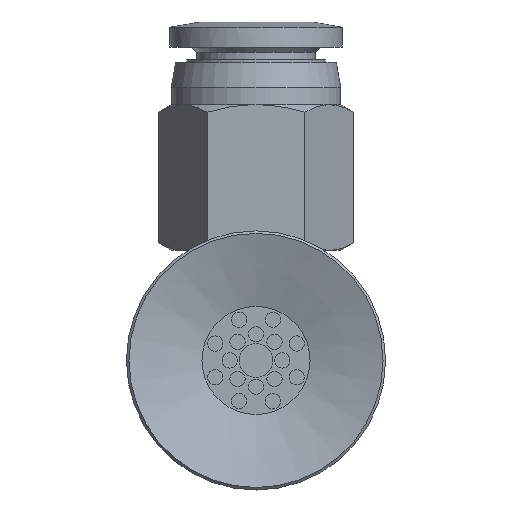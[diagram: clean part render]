
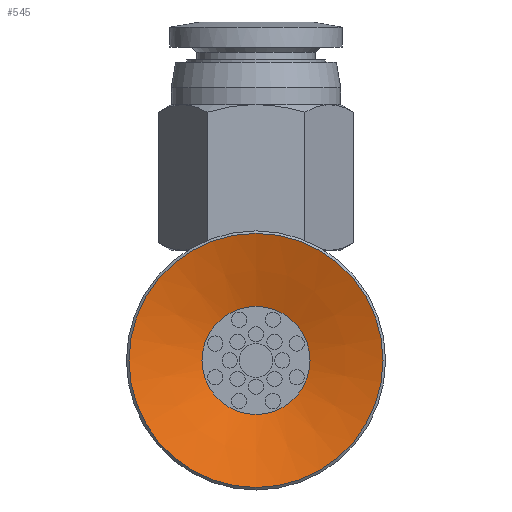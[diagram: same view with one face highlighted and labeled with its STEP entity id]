
A CAD part, front view. The second image highlights one B-rep face of the part: STEP entity #545.
In plain terms, the highlighted conical face has half-angle 72 degrees and reference radius 7.5 mm.
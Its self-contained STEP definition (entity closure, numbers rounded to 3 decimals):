
#545=ADVANCED_FACE('',(#880,#881),#882,.F.);
#880=FACE_BOUND('',#1366,.T.);
#881=FACE_OUTER_BOUND('',#1367,.T.);
#882=CONICAL_SURFACE('',#1368,7.5,1.257);
#1366=EDGE_LOOP('',(#2438));
#1367=EDGE_LOOP('',(#2439));
#1368=AXIS2_PLACEMENT_3D('',#2440,#2441,#2442);
#2438=ORIENTED_EDGE('',*,*,#3143,.T.);
#2439=ORIENTED_EDGE('',*,*,#3144,.F.);
#2440=CARTESIAN_POINT('',(0.0,0.,0.));
#2441=DIRECTION('',(0.0,0.,-1.0));
#2442=DIRECTION('',(0.0,1.0,0.));
#3143=EDGE_CURVE('',#3564,#3564,#3565,.T.);
#3144=EDGE_CURVE('',#3566,#3566,#3567,.T.);
#3564=VERTEX_POINT('',#4464);
#3565=CIRCLE('',#4465,3.191);
#3566=VERTEX_POINT('',#4466);
#3567=CIRCLE('',#4467,7.5);
#4464=CARTESIAN_POINT('',(0.0,-3.191,1.4));
#4465=AXIS2_PLACEMENT_3D('',#5279,#5280,#5281);
#4466=CARTESIAN_POINT('',(0.0,-7.5,0.));
#4467=AXIS2_PLACEMENT_3D('',#5282,#5283,#5284);
#5279=CARTESIAN_POINT('',(0.0,0.,1.4));
#5280=DIRECTION('',(0.0,0.,1.0));
#5281=DIRECTION('',(0.0,-1.0,0.));
#5282=CARTESIAN_POINT('',(0.0,0.,0.));
#5283=DIRECTION('',(0.0,0.,1.0));
#5284=DIRECTION('',(0.0,-1.0,0.));
